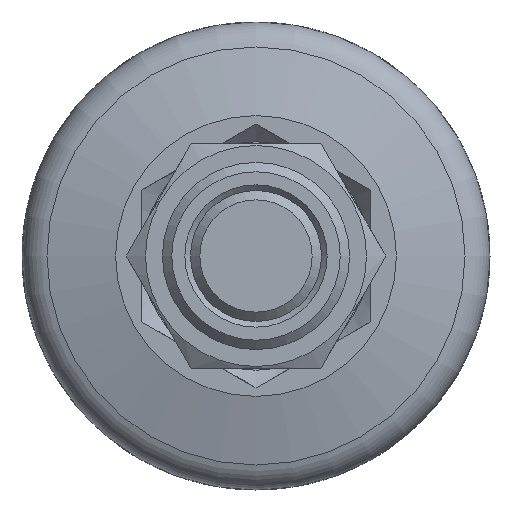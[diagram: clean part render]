
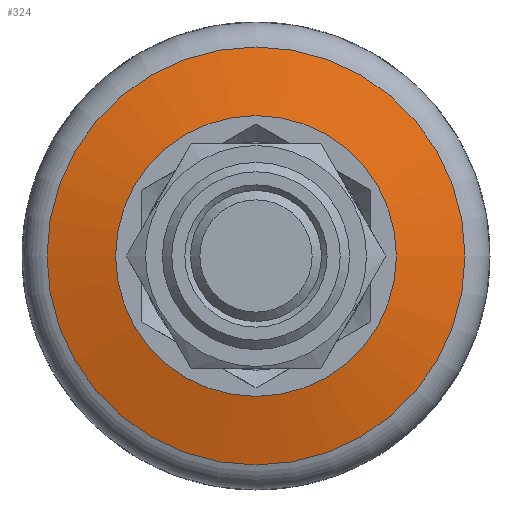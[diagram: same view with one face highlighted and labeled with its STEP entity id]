
A CAD part, front view. The second image highlights one B-rep face of the part: STEP entity #324.
In plain terms, the highlighted conical face has half-angle 75 degrees and reference radius 11.166 mm.
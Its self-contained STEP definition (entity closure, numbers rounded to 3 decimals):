
#324 = ADVANCED_FACE( '', ( #751, #752 ), #753, .T. );
#751 = FACE_BOUND( '', #1312, .T. );
#752 = FACE_OUTER_BOUND( '', #1313, .T. );
#753 = CONICAL_SURFACE( '', #1314, 11.166, 1.309 );
#1312 = EDGE_LOOP( '', ( #3038 ) );
#1313 = EDGE_LOOP( '', ( #3039 ) );
#1314 = AXIS2_PLACEMENT_3D( '', #3040, #3041, #3042 );
#3038 = ORIENTED_EDGE( '', *, *, #4347, .F. );
#3039 = ORIENTED_EDGE( '', *, *, #4346, .T. );
#3040 = CARTESIAN_POINT( '', ( 0., 20.039, 0. ) );
#3041 = DIRECTION( '', ( 0., 1., 0. ) );
#3042 = DIRECTION( '', ( 0., 0., 1. ) );
#4346 = EDGE_CURVE( '', #5520, #5520, #5521, .T. );
#4347 = EDGE_CURVE( '', #5522, #5522, #5523, .T. );
#5520 = VERTEX_POINT( '', #7623 );
#5521 = CIRCLE( '', #7624, 11.166 );
#5522 = VERTEX_POINT( '', #7625 );
#5523 = CIRCLE( '', #7626, 7.5 );
#7623 = CARTESIAN_POINT( '', ( 0., 20.039, -11.166 ) );
#7624 = AXIS2_PLACEMENT_3D( '', #8528, #8529, #8530 );
#7625 = CARTESIAN_POINT( '', ( 0., 19.057, -7.5 ) );
#7626 = AXIS2_PLACEMENT_3D( '', #8531, #8532, #8533 );
#8528 = CARTESIAN_POINT( '', ( 0., 20.039, 0. ) );
#8529 = DIRECTION( '', ( 0., -1., 0. ) );
#8530 = DIRECTION( '', ( 0., 0., -1. ) );
#8531 = CARTESIAN_POINT( '', ( 0., 19.057, 0. ) );
#8532 = DIRECTION( '', ( 0., -1., 0. ) );
#8533 = DIRECTION( '', ( 0., 0., -1. ) );
